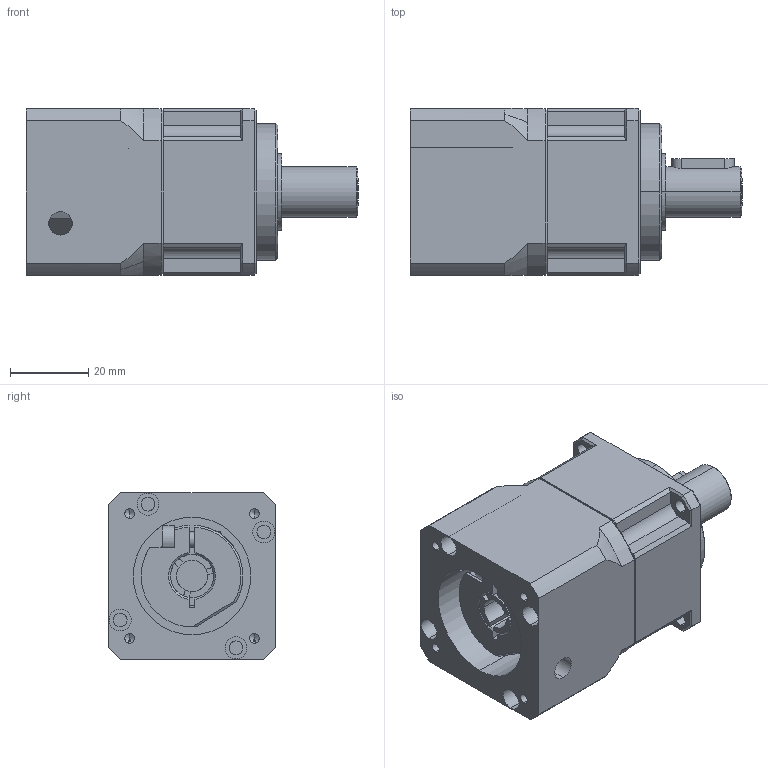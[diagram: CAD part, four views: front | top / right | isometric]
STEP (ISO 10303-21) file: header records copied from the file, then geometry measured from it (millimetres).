
FILE_DESCRIPTION (( 'STEP AP214' ), '1' );
FILE_NAME ('PLG42-L1-8-30-45.STEP', '2022-04-23T05:37:46', ( '' ), ( '' ), 'SwSTEP 2.0', 'SolidWorks 2017', '' );
FILE_SCHEMA (( 'AUTOMOTIVE_DESIGN' ));
Length unit declared in the file: millimetre
Products named in the file (6): PLG42-CQ01; PLG42-SJH(坶踡遠謂11); PLG42-WZZ-8-30-M3-45-LR28_1123; 5X5X16; PLG42-L1-8-30-45; M3x12
Assembly tree (5 placements, depth 2):
  PLG42-L1-8-30-45
    PLG42-CQ01
    PLG42-WZZ-8-30-M3-45-LR28_1123
    PLG42-SJH(坶踡遠謂11)
    M3x12
    5X5X16
Bounding box: 84.8 x 42.6 x 42.6 mm (x, y, z)
Volume: 93429.3 mm3; surface area: 28393 mm2
Topology: 5 solids, 5 shells, 267 faces, 669 edges, 426 vertices
Faces by surface type: cylinder 113, plane 101, cone 45, bspline 8
Entity records: 8734 total; most frequent: CARTESIAN_POINT 2031, DIRECTION 1400, ORIENTED_EDGE 1318, EDGE_CURVE 659, AXIS2_PLACEMENT_3D 547, VERTEX_POINT 426, EDGE_LOOP 315, VECTOR 306
